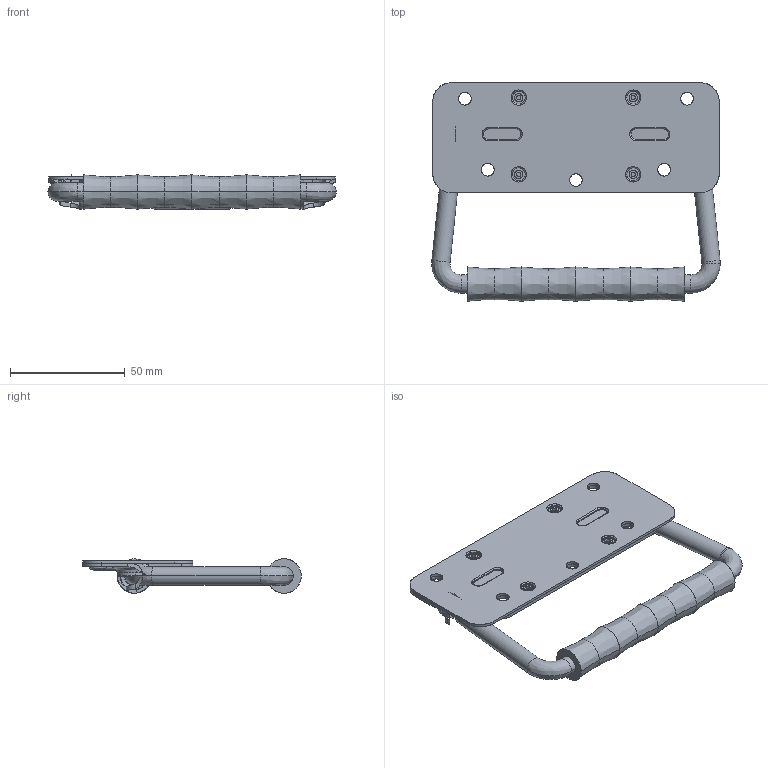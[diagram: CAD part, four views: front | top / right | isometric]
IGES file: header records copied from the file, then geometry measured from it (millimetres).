
Start section: SolidWorks IGES file using analytic representation for surfaces
Global section: file name: C:\Users\cbrechard\Desktop\PR 303.IGS; native system: SolidWorks 2017; preprocessor: SolidWorks 2017; author: cbrechard; date: 190111.094554; units: millimetre
Bounding box: 125.97 x 95.4 x 15 mm (x, y, z)
Surface area: 38011.1 mm2 (no closed solid volume)
Topology: 0 solids, 0 shells, 390 faces, 5482 edges, 5470 vertices
Faces by surface type: bspline 196, revolution 194
